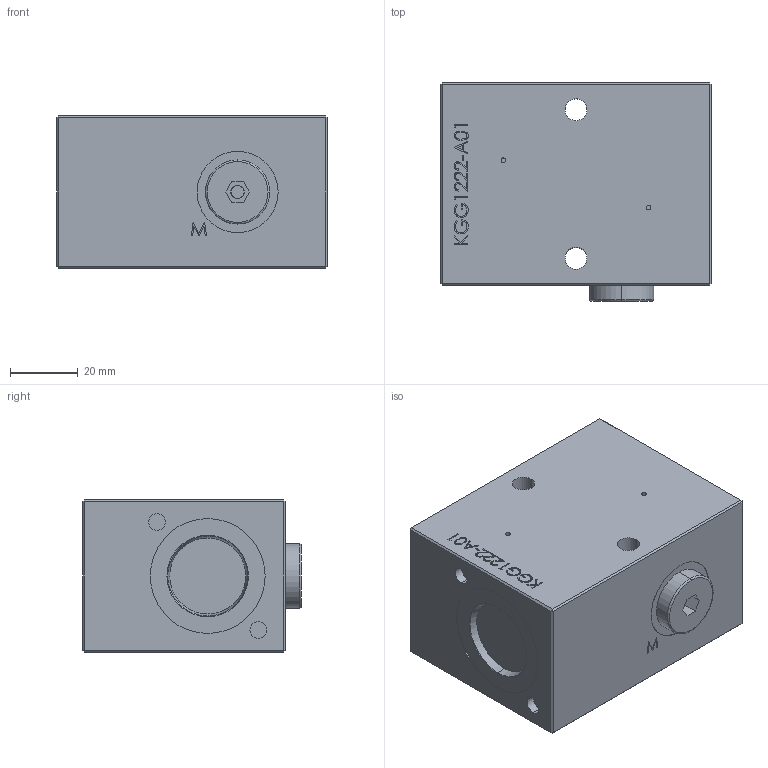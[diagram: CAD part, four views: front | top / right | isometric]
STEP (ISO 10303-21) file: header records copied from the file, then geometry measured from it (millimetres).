
FILE_DESCRIPTION (( 'STEP AP214' ), '1' );
FILE_NAME ('KGG1222-A01.STEP', '2016-11-25T10:51:08', ( '' ), ( '' ), 'SwSTEP 2.0', 'SolidWorks 2014', '' );
FILE_SCHEMA (( 'AUTOMOTIVE_DESIGN' ));
Length unit declared in the file: millimetre
Products named in the file (2): KGG1222-A01
Bounding box: 80 x 64.7 x 45 mm (x, y, z)
Volume: 210873.9 mm3; surface area: 25506.2 mm2
Topology: 2 solids, 3 shells, 248 faces, 608 edges, 396 vertices
Faces by surface type: plane 155, bspline 51, cylinder 34, torus 4, cone 4
Entity records: 13334 total; most frequent: CARTESIAN_POINT 5041, ORIENTED_EDGE 1216, DIRECTION 988, EDGE_CURVE 608, LINE 422, VECTOR 422, VERTEX_POINT 396, EDGE_LOOP 286
